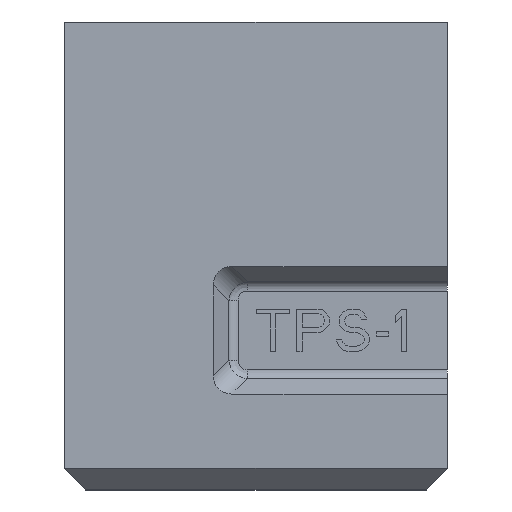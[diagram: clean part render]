
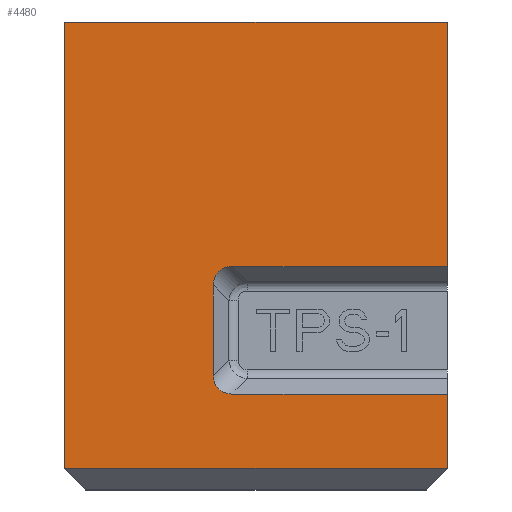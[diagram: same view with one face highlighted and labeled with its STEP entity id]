
A CAD part, top view. The second image highlights one B-rep face of the part: STEP entity #4480.
In plain terms, the highlighted planar face has unit normal (0, 0, 1).
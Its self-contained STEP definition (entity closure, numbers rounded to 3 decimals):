
#379=CARTESIAN_POINT('',(-2.,9.634,4.));
#380=CARTESIAN_POINT('',(-2.,9.706,4.));
#381=CARTESIAN_POINT('',(-1.986,9.836,4.));
#382=CARTESIAN_POINT('',(-1.918,10.057,4.));
#383=CARTESIAN_POINT('',(-1.772,10.272,4.));
#384=CARTESIAN_POINT('',(-1.557,10.418,4.));
#385=CARTESIAN_POINT('',(-1.336,10.486,4.));
#386=CARTESIAN_POINT('',(-1.206,10.5,4.));
#387=CARTESIAN_POINT('',(-1.134,10.5,4.));
#389=DIRECTION('',(0.,1.,0.));
#390=VECTOR('',#389,4.268);
#391=CARTESIAN_POINT('',(-2.,5.366,4.));
#392=LINE('',#391,#390);
#393=CARTESIAN_POINT('',(-2.,5.366,4.));
#394=CARTESIAN_POINT('',(-2.,5.294,4.));
#395=CARTESIAN_POINT('',(-1.986,5.164,4.));
#396=CARTESIAN_POINT('',(-1.918,4.943,4.));
#397=CARTESIAN_POINT('',(-1.772,4.728,4.));
#398=CARTESIAN_POINT('',(-1.557,4.582,4.));
#399=CARTESIAN_POINT('',(-1.336,4.514,4.));
#400=CARTESIAN_POINT('',(-1.206,4.5,4.));
#401=CARTESIAN_POINT('',(-1.134,4.5,4.));
#403=DIRECTION('',(-1.,0.,0.));
#404=VECTOR('',#403,10.134);
#405=CARTESIAN_POINT('',(9.,4.5,4.));
#406=LINE('',#405,#404);
#407=DIRECTION('',(0.,-1.,0.));
#408=VECTOR('',#407,3.5);
#409=CARTESIAN_POINT('',(9.,4.5,4.));
#410=LINE('',#409,#408);
#411=DIRECTION('',(-1.,0.,0.));
#412=VECTOR('',#411,18.);
#413=CARTESIAN_POINT('',(9.,1.,4.));
#414=LINE('',#413,#412);
#415=DIRECTION('',(0.,1.,0.));
#416=VECTOR('',#415,21.);
#417=CARTESIAN_POINT('',(-9.,1.,4.));
#418=LINE('',#417,#416);
#419=DIRECTION('',(1.,0.,0.));
#420=VECTOR('',#419,18.);
#421=CARTESIAN_POINT('',(-9.,22.,4.));
#422=LINE('',#421,#420);
#423=DIRECTION('',(0.,-1.,0.));
#424=VECTOR('',#423,11.5);
#425=CARTESIAN_POINT('',(9.,22.,4.));
#426=LINE('',#425,#424);
#431=DIRECTION('',(1.,0.,0.));
#432=VECTOR('',#431,10.134);
#433=CARTESIAN_POINT('',(-1.134,10.5,4.));
#434=LINE('',#433,#432);
#3225=CARTESIAN_POINT('',(-2.,5.366,4.));
#3226=CARTESIAN_POINT('',(-2.,9.634,4.));
#3227=VERTEX_POINT('',#3225);
#3228=VERTEX_POINT('',#3226);
#3229=VERTEX_POINT('',#387);
#3230=CARTESIAN_POINT('',(9.,4.5,4.));
#3231=CARTESIAN_POINT('',(-1.134,4.5,4.));
#3232=VERTEX_POINT('',#3230);
#3233=VERTEX_POINT('',#3231);
#3538=CARTESIAN_POINT('',(9.,10.5,4.));
#3539=VERTEX_POINT('',#3538);
#3540=CARTESIAN_POINT('',(9.,22.,4.));
#3541=VERTEX_POINT('',#3540);
#3542=CARTESIAN_POINT('',(9.,1.,4.));
#3543=VERTEX_POINT('',#3542);
#3551=CARTESIAN_POINT('',(-9.,1.,4.));
#3552=VERTEX_POINT('',#3551);
#3553=CARTESIAN_POINT('',(-9.,22.,4.));
#3554=VERTEX_POINT('',#3553);
#4457=CARTESIAN_POINT('',(0.,0.,4.));
#4458=DIRECTION('',(0.,0.,1.));
#4459=DIRECTION('',(1.,0.,0.));
#4460=AXIS2_PLACEMENT_3D('',#4457,#4458,#4459);
#4461=PLANE('',#4460);
#4463=ORIENTED_EDGE('',*,*,#4462,.F.);
#4465=ORIENTED_EDGE('',*,*,#4464,.F.);
#4467=ORIENTED_EDGE('',*,*,#4466,.F.);
#4468=ORIENTED_EDGE('',*,*,#4450,.T.);
#4469=ORIENTED_EDGE('',*,*,#4355,.F.);
#4470=ORIENTED_EDGE('',*,*,#4342,.T.);
#4472=ORIENTED_EDGE('',*,*,#4471,.T.);
#4474=ORIENTED_EDGE('',*,*,#4473,.T.);
#4476=ORIENTED_EDGE('',*,*,#4475,.T.);
#4477=ORIENTED_EDGE('',*,*,#4329,.T.);
#4478=EDGE_LOOP('',(#4463,#4465,#4467,#4468,#4469,#4470,#4472,#4474,#4476,
#4477));
#4479=FACE_OUTER_BOUND('',#4478,.F.);
#4480=ADVANCED_FACE('',(#4479),#4461,.T.);
#388=B_SPLINE_CURVE_WITH_KNOTS('',3,(#379,#380,#381,#382,#383,#384,#385,#386,
#387),.UNSPECIFIED.,.F.,.F.,(4,1,1,1,1,1,4),(0.,0.125,0.25,0.5,0.75,
0.875,1.),.UNSPECIFIED.);
#402=B_SPLINE_CURVE_WITH_KNOTS('',3,(#393,#394,#395,#396,#397,#398,#399,#400,
#401),.UNSPECIFIED.,.F.,.F.,(4,1,1,1,1,1,4),(0.,0.125,0.25,0.5,0.75,
0.875,1.),.UNSPECIFIED.);
#4329=EDGE_CURVE('',#3541,#3539,#426,.T.);
#4342=EDGE_CURVE('',#3232,#3543,#410,.T.);
#4355=EDGE_CURVE('',#3232,#3233,#406,.T.);
#4450=EDGE_CURVE('',#3227,#3233,#402,.T.);
#4462=EDGE_CURVE('',#3229,#3539,#434,.T.);
#4464=EDGE_CURVE('',#3228,#3229,#388,.T.);
#4466=EDGE_CURVE('',#3227,#3228,#392,.T.);
#4471=EDGE_CURVE('',#3543,#3552,#414,.T.);
#4473=EDGE_CURVE('',#3552,#3554,#418,.T.);
#4475=EDGE_CURVE('',#3554,#3541,#422,.T.);
